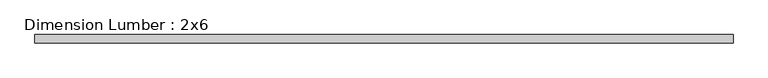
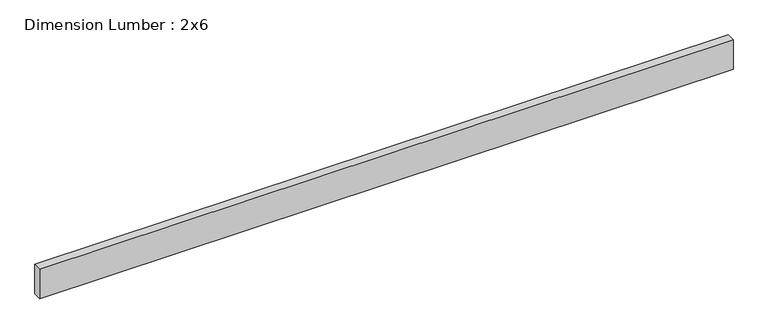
"""IFC4 building model written with IfcOpenShell, lengths in millimetres: beam geometry, Dimension Lumber : 2x6."""

from ifc_helpers import new_model, si_unit, frame, origin, place, context, project, spatial, polyline, outline, extrude, source, transform, mapped, element, save


def dimension_lumber_2x6_53963d81(model_context):
    return source(origin(), model_context, "Body", "SweptSolid", [
        extrude(outline(polyline([(1561.5137095, 19.05), (1561.5137095, -19.05), (-1561.5137095, -19.05), (-1561.5137095, 19.05), (1561.5137095, 19.05)])), frame((0.0, 0.0, -69.85), z_axis=(0.0, 0.0, 1.0), x_axis=(1.0, 0.0, 0.0)), (0.0, 0.0, 1.0), 139.7),
    ])


if __name__ == "__main__":
    model = new_model("IFC4")
    model_context = context("Model", 3, world=origin())
    ifc_project = project(units=[si_unit("LENGTHUNIT", "METRE", prefix="MILLI")], contexts=[model_context])
    site = spatial("IfcSite", under=ifc_project)
    building = spatial("IfcBuilding", under=site)
    placement = place(None, origin())
    dimension_lumber_2x6_shape = dimension_lumber_2x6_53963d81(model_context)
    element("IfcBeam", 1, ObjectType="Dimension Lumber : 2x6", at=placement, inside=building, context=model_context, shape_type="MappedRepresentation", body=[
        mapped(dimension_lumber_2x6_shape, transform((0.0, 0.0, 0.0), x_axis=(1.0, 0.0, 0.0), y_axis=(0.0, 1.0, 0.0), z_axis=(0.0, 0.0, 1.0))),
    ])
    save(model, "model.ifc")
